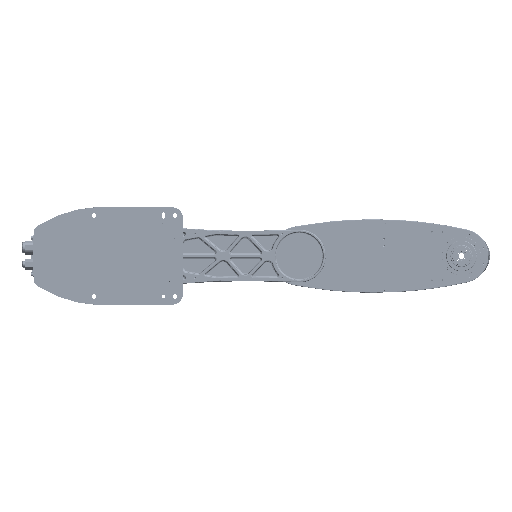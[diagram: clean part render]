
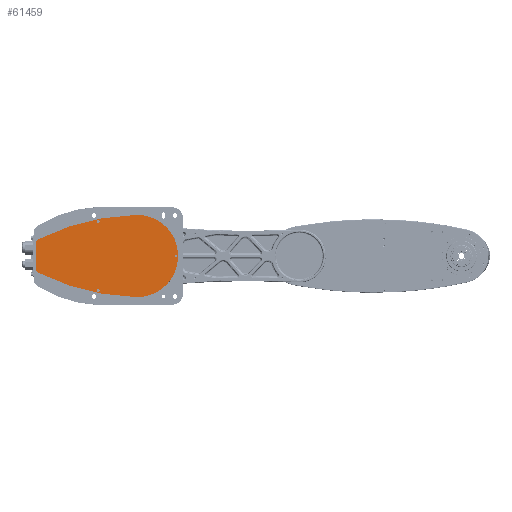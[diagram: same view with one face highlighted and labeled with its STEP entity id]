
A CAD part, front view. The second image highlights one B-rep face of the part: STEP entity #61459.
In plain terms, the highlighted planar face has unit normal (0, -1, 0) as drawn and (0, 0, -1) by its records, which use the part's own axes.
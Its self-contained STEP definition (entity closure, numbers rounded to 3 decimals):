
#2987 = DIRECTION ( 'NONE',  ( 0., 0., 1. ) ) ;
#9893 = CARTESIAN_POINT ( 'NONE',  ( 0., 0., 0. ) ) ;
#10945 = CARTESIAN_POINT ( 'NONE',  ( 8.994, 353.386, 0. ) ) ;
#12473 = DIRECTION ( 'NONE',  ( -1., 0., 0. ) ) ;
#15134 = CIRCLE ( 'NONE', #237441, 1.75 ) ;
#21064 = CIRCLE ( 'NONE', #150272, 9. ) ;
#22163 = FACE_BOUND ( 'NONE', #98157, .T. ) ;
#24392 = CARTESIAN_POINT ( 'NONE',  ( -1.934, -75.975, 0. ) ) ;
#24592 = AXIS2_PLACEMENT_3D ( 'NONE', #10945, #29450, #66438 ) ;
#24626 = DIRECTION ( 'NONE',  ( -1., 0., 0. ) ) ;
#27650 = DIRECTION ( 'NONE',  ( 0., 1., 0. ) ) ;
#29450 = DIRECTION ( 'NONE',  ( 0., 0., 1. ) ) ;
#31030 = EDGE_CURVE ( 'NONE', #184837, #124637, #200419, .T. ) ;
#31454 = DIRECTION ( 'NONE',  ( 0., 0., 1. ) ) ;
#31656 = EDGE_LOOP ( 'NONE', ( #63491, #186563 ) ) ;
#36152 = CIRCLE ( 'NONE', #88821, 1.75 ) ;
#37715 = DIRECTION ( 'NONE',  ( 1., 0., 0. ) ) ;
#38510 = CARTESIAN_POINT ( 'NONE',  ( 72., 0., 0. ) ) ;
#38600 = CARTESIAN_POINT ( 'NONE',  ( -70.25, -64., 0. ) ) ;
#40950 = VERTEX_POINT ( 'NONE', #146823 ) ;
#41047 = AXIS2_PLACEMENT_3D ( 'NONE', #69236, #31454, #178815 ) ;
#48598 = CARTESIAN_POINT ( 'NONE',  ( -1.934, 75.975, 0. ) ) ;
#50124 = DIRECTION ( 'NONE',  ( 0., 0., 1. ) ) ;
#52965 = VERTEX_POINT ( 'NONE', #213031 ) ;
#55687 = DIRECTION ( 'NONE',  ( -1., 0., 0. ) ) ;
#58029 = CARTESIAN_POINT ( 'NONE',  ( -73.75, 64., 0. ) ) ;
#61459 = ADVANCED_FACE ( 'N', ( #203813, #22163, #160524, #111595 ), #181242, .F. ) ;
#61692 = DIRECTION ( 'NONE',  ( 0., 0., 1. ) ) ;
#62252 = CARTESIAN_POINT ( 'NONE',  ( -182.513, 31.056, 0. ) ) ;
#62482 = CARTESIAN_POINT ( 'NONE',  ( -72., 64., 0. ) ) ;
#63491 = ORIENTED_EDGE ( 'NONE', *, *, #73595, .T. ) ;
#66438 = DIRECTION ( 'NONE',  ( -1., 0., 0. ) ) ;
#67961 = CIRCLE ( 'NONE', #227224, 1.75 ) ;
#69236 = CARTESIAN_POINT ( 'NONE',  ( 8.994, -353.386, 0. ) ) ;
#73058 = DIRECTION ( 'NONE',  ( 1., 0., 0. ) ) ;
#73595 = EDGE_CURVE ( 'NONE', #124637, #184837, #67961, .T. ) ;
#78329 = CARTESIAN_POINT ( 'NONE',  ( 72., 0., 0. ) ) ;
#80409 = CIRCLE ( 'NONE', #109639, 429.5 ) ;
#85342 = CARTESIAN_POINT ( 'NONE',  ( -72., 64., 0. ) ) ;
#87300 = DIRECTION ( 'NONE',  ( 1., 0., 0. ) ) ;
#88821 = AXIS2_PLACEMENT_3D ( 'NONE', #85342, #103117, #105472 ) ;
#89051 = ORIENTED_EDGE ( 'NONE', *, *, #194231, .T. ) ;
#90223 = CARTESIAN_POINT ( 'NONE',  ( 73.75, 0., 0. ) ) ;
#94267 = DIRECTION ( 'NONE',  ( 0., 0., 1. ) ) ;
#96392 = EDGE_CURVE ( 'NONE', #160062, #177658, #121698, .T. ) ;
#96880 = DIRECTION ( 'NONE',  ( 0., 0., 1. ) ) ;
#98157 = EDGE_LOOP ( 'NONE', ( #208762, #218898 ) ) ;
#98605 = VECTOR ( 'NONE', #27650, 1000. ) ;
#103117 = DIRECTION ( 'NONE',  ( 0., 0., 1. ) ) ;
#104267 = ORIENTED_EDGE ( 'NONE', *, *, #203463, .F. ) ;
#105472 = DIRECTION ( 'NONE',  ( 1., 0., 0. ) ) ;
#106636 = CARTESIAN_POINT ( 'NONE',  ( -72., -64., 0. ) ) ;
#109639 = AXIS2_PLACEMENT_3D ( 'NONE', #176756, #196073, #12473 ) ;
#111533 = ORIENTED_EDGE ( 'NONE', *, *, #218003, .F. ) ;
#111595 = FACE_BOUND ( 'NONE', #198264, .T. ) ;
#117250 = DIRECTION ( 'NONE',  ( 1., 0., 0. ) ) ;
#117356 = AXIS2_PLACEMENT_3D ( 'NONE', #62482, #61692, #117250 ) ;
#117368 = CARTESIAN_POINT ( 'NONE',  ( -187.5, -23., 0. ) ) ;
#121698 = LINE ( 'NONE', #136390, #98605 ) ;
#124043 = EDGE_LOOP ( 'NONE', ( #203359, #227124, #186035, #215278, #111533, #104267 ) ) ;
#124637 = VERTEX_POINT ( 'NONE', #90223 ) ;
#126774 = CIRCLE ( 'NONE', #154355, 1.75 ) ;
#127089 = DIRECTION ( 'NONE',  ( 0., 0., 1. ) ) ;
#130526 = CARTESIAN_POINT ( 'NONE',  ( -178.5, -23., 0. ) ) ;
#132530 = CIRCLE ( 'NONE', #24592, 429.5 ) ;
#136309 = CIRCLE ( 'NONE', #215197, 9. ) ;
#136390 = CARTESIAN_POINT ( 'NONE',  ( -187.5, 23., 0. ) ) ;
#139494 = EDGE_CURVE ( 'NONE', #52965, #153465, #204352, .T. ) ;
#140090 = VERTEX_POINT ( 'NONE', #48598 ) ;
#145265 = VERTEX_POINT ( 'NONE', #62252 ) ;
#146823 = CARTESIAN_POINT ( 'NONE',  ( -73.75, -64., 0. ) ) ;
#150272 = AXIS2_PLACEMENT_3D ( 'NONE', #130526, #94267, #55687 ) ;
#153465 = VERTEX_POINT ( 'NONE', #58029 ) ;
#154355 = AXIS2_PLACEMENT_3D ( 'NONE', #237430, #127089, #73058 ) ;
#154459 = CARTESIAN_POINT ( 'NONE',  ( 70.25, 0., 0. ) ) ;
#154575 = EDGE_CURVE ( 'NONE', #198489, #140090, #238685, .T. ) ;
#156167 = VERTEX_POINT ( 'NONE', #38600 ) ;
#160062 = VERTEX_POINT ( 'NONE', #117368 ) ;
#160524 = FACE_BOUND ( 'NONE', #31656, .T. ) ;
#161568 = EDGE_CURVE ( 'NONE', #40950, #156167, #126774, .T. ) ;
#161762 = AXIS2_PLACEMENT_3D ( 'NONE', #9893, #50124, #233704 ) ;
#170036 = ORIENTED_EDGE ( 'NONE', *, *, #139494, .T. ) ;
#173882 = CARTESIAN_POINT ( 'NONE',  ( -182.513, -31.056, 0. ) ) ;
#174958 = EDGE_CURVE ( 'NONE', #160062, #212553, #21064, .T. ) ;
#176756 = CARTESIAN_POINT ( 'NONE',  ( 8.994, -353.386, 0. ) ) ;
#177658 = VERTEX_POINT ( 'NONE', #199366 ) ;
#178815 = DIRECTION ( 'NONE',  ( 1., 0., 0. ) ) ;
#181077 = EDGE_CURVE ( 'NONE', #156167, #40950, #15134, .T. ) ;
#181242 = PLANE ( 'NONE',  #41047 ) ;
#184837 = VERTEX_POINT ( 'NONE', #154459 ) ;
#186035 = ORIENTED_EDGE ( 'NONE', *, *, #174958, .F. ) ;
#186563 = ORIENTED_EDGE ( 'NONE', *, *, #31030, .T. ) ;
#189707 = DIRECTION ( 'NONE',  ( 0., 0., 1. ) ) ;
#194231 = EDGE_CURVE ( 'NONE', #153465, #52965, #36152, .T. ) ;
#194386 = AXIS2_PLACEMENT_3D ( 'NONE', #78329, #96880, #225768 ) ;
#196073 = DIRECTION ( 'NONE',  ( 0., 0., 1. ) ) ;
#198264 = EDGE_LOOP ( 'NONE', ( #170036, #89051 ) ) ;
#198489 = VERTEX_POINT ( 'NONE', #24392 ) ;
#198494 = DIRECTION ( 'NONE',  ( 0., 0., 1. ) ) ;
#199366 = CARTESIAN_POINT ( 'NONE',  ( -187.5, 23., 0. ) ) ;
#200419 = CIRCLE ( 'NONE', #194386, 1.75 ) ;
#202246 = EDGE_CURVE ( 'NONE', #212553, #198489, #132530, .T. ) ;
#203359 = ORIENTED_EDGE ( 'NONE', *, *, #154575, .F. ) ;
#203463 = EDGE_CURVE ( 'NONE', #140090, #145265, #80409, .T. ) ;
#203813 = FACE_OUTER_BOUND ( 'NONE', #124043, .T. ) ;
#204352 = CIRCLE ( 'NONE', #117356, 1.75 ) ;
#206667 = CARTESIAN_POINT ( 'NONE',  ( -178.5, 23., 0. ) ) ;
#208762 = ORIENTED_EDGE ( 'NONE', *, *, #181077, .T. ) ;
#212553 = VERTEX_POINT ( 'NONE', #173882 ) ;
#213031 = CARTESIAN_POINT ( 'NONE',  ( -70.25, 64., 0. ) ) ;
#215197 = AXIS2_PLACEMENT_3D ( 'NONE', #206667, #189707, #24626 ) ;
#215278 = ORIENTED_EDGE ( 'NONE', *, *, #96392, .T. ) ;
#218003 = EDGE_CURVE ( 'NONE', #145265, #177658, #136309, .T. ) ;
#218898 = ORIENTED_EDGE ( 'NONE', *, *, #161568, .T. ) ;
#225768 = DIRECTION ( 'NONE',  ( 1., 0., 0. ) ) ;
#227124 = ORIENTED_EDGE ( 'NONE', *, *, #202246, .F. ) ;
#227224 = AXIS2_PLACEMENT_3D ( 'NONE', #38510, #2987, #37715 ) ;
#233704 = DIRECTION ( 'NONE',  ( -1., 0., 0. ) ) ;
#237430 = CARTESIAN_POINT ( 'NONE',  ( -72., -64., 0. ) ) ;
#237441 = AXIS2_PLACEMENT_3D ( 'NONE', #106636, #198494, #87300 ) ;
#238685 = CIRCLE ( 'NONE', #161762, 76. ) ;
